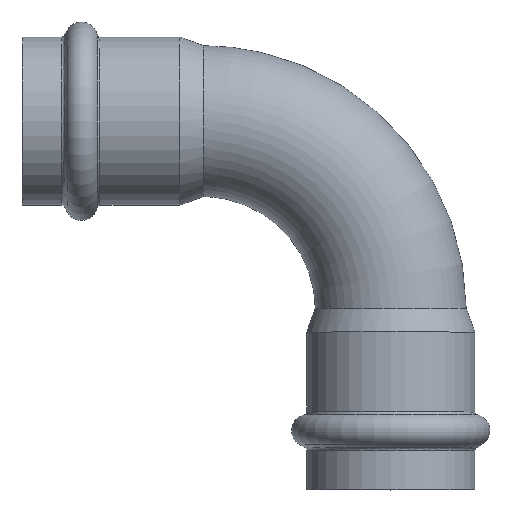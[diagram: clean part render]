
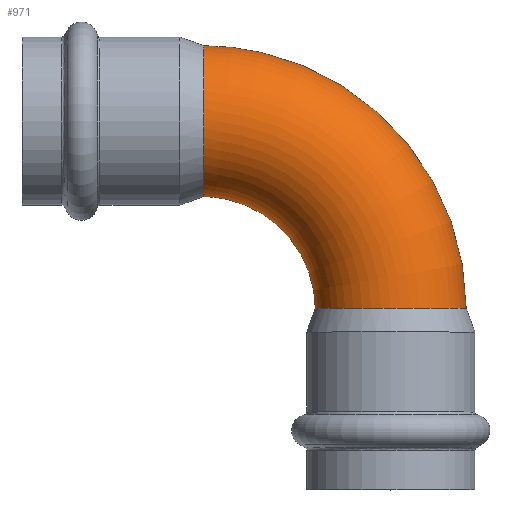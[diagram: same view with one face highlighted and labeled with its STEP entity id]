
A CAD part, top view. The second image highlights one B-rep face of the part: STEP entity #971.
In plain terms, the highlighted toroidal (fillet/blend) face has major radius 35 mm and minor radius 14 mm.
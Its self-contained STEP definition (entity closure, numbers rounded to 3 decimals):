
#648=CARTESIAN_POINT('',(13.999,-34.738,0.));
#649=VERTEX_POINT('',#648);
#650=CARTESIAN_POINT('',(13.999,-34.738,0.));
#651=CARTESIAN_POINT('',(13.999,-34.738,-1.032));
#652=CARTESIAN_POINT('',(13.885,-34.738,-2.061));
#653=CARTESIAN_POINT('',(13.433,-34.738,-4.075));
#654=CARTESIAN_POINT('',(13.096,-34.738,-5.053));
#655=CARTESIAN_POINT('',(11.875,-34.738,-7.635));
#656=CARTESIAN_POINT('',(10.781,-34.738,-9.115));
#657=CARTESIAN_POINT('',(8.086,-34.738,-11.573));
#658=CARTESIAN_POINT('',(6.511,-34.738,-12.527));
#659=CARTESIAN_POINT('',(3.083,-34.739,-13.777));
#660=CARTESIAN_POINT('',(1.263,-34.739,-14.062));
#661=CARTESIAN_POINT('',(-2.384,-34.74,-13.916));
#662=CARTESIAN_POINT('',(-4.175,-34.74,-13.487));
#663=CARTESIAN_POINT('',(-7.491,-34.741,-11.968));
#664=CARTESIAN_POINT('',(-8.984,-34.742,-10.892));
#665=CARTESIAN_POINT('',(-11.472,-34.743,-8.231));
#666=CARTESIAN_POINT('',(-12.444,-34.743,-6.671));
#667=CARTESIAN_POINT('',(-13.736,-34.744,-3.267));
#668=CARTESIAN_POINT('',(-14.045,-34.744,-1.453));
#669=CARTESIAN_POINT('',(-13.949,-34.744,2.193));
#670=CARTESIAN_POINT('',(-13.544,-34.744,3.992));
#671=CARTESIAN_POINT('',(-12.067,-34.743,7.331));
#672=CARTESIAN_POINT('',(-11.01,-34.743,8.84));
#673=CARTESIAN_POINT('',(-8.378,-34.742,11.364));
#674=CARTESIAN_POINT('',(-6.83,-34.741,12.357));
#675=CARTESIAN_POINT('',(-3.44,-34.74,13.693));
#676=CARTESIAN_POINT('',(-1.631,-34.74,14.024));
#677=CARTESIAN_POINT('',(2.012,-34.739,13.974));
#678=CARTESIAN_POINT('',(3.811,-34.739,13.594));
#679=CARTESIAN_POINT('',(7.163,-34.738,12.165));
#680=CARTESIAN_POINT('',(8.684,-34.738,11.131));
#681=CARTESIAN_POINT('',(11.245,-34.738,8.536));
#682=CARTESIAN_POINT('',(12.259,-34.738,7.001));
#683=CARTESIAN_POINT('',(13.643,-34.738,3.628));
#684=CARTESIAN_POINT('',(13.999,-34.738,1.823));
#685=CARTESIAN_POINT('',(13.999,-34.738,0.));
#686=B_SPLINE_CURVE_WITH_KNOTS('',3,(#650,#651,#652,#653,#654,#655,#656,#657,#658,#659,#660,#661,#662,#663,#664,#665,#666,#667,#668,#669,#670,#671,#672,#673,#674,#675,#676,#677,#678,#679,#680,#681,#682,#683,#684,#685),.UNSPECIFIED.,.T.,.U.,(4,2,2,2,2,2,2,2,2,2,2,2,2,2,2,2,2,4),(-8.823,-8.513,-8.204,-7.657,-7.11,-6.562,-6.015,-5.468,-4.922,-4.375,-3.827,-3.28,-2.733,-2.187,-1.64,-1.094,-0.547,0.0),.UNSPECIFIED.);
#687=EDGE_CURVE('',#649,#649,#686,.T.);
#920=CARTESIAN_POINT('',(-35.0,-35.0,0.));
#921=DIRECTION('',(0.,0.0,1.0));
#922=DIRECTION('',(1.0,0.0,0.0));
#923=AXIS2_PLACEMENT_3D('',#920,#921,#922);
#924=TOROIDAL_SURFACE('',#923,35.0,14.);
#925=CARTESIAN_POINT('',(-34.738,13.999,0.));
#926=VERTEX_POINT('',#925);
#927=CARTESIAN_POINT('',(-34.738,13.999,0.));
#928=CARTESIAN_POINT('',(-34.738,13.999,-1.823));
#929=CARTESIAN_POINT('',(-34.738,13.643,-3.628));
#930=CARTESIAN_POINT('',(-34.738,12.259,-7.001));
#931=CARTESIAN_POINT('',(-34.738,11.245,-8.536));
#932=CARTESIAN_POINT('',(-34.738,8.684,-11.131));
#933=CARTESIAN_POINT('',(-34.738,7.163,-12.165));
#934=CARTESIAN_POINT('',(-34.739,3.811,-13.594));
#935=CARTESIAN_POINT('',(-34.739,2.012,-13.974));
#936=CARTESIAN_POINT('',(-34.74,-1.631,-14.024));
#937=CARTESIAN_POINT('',(-34.74,-3.44,-13.693));
#938=CARTESIAN_POINT('',(-34.741,-6.83,-12.357));
#939=CARTESIAN_POINT('',(-34.742,-8.378,-11.364));
#940=CARTESIAN_POINT('',(-34.743,-11.01,-8.84));
#941=CARTESIAN_POINT('',(-34.743,-12.067,-7.331));
#942=CARTESIAN_POINT('',(-34.744,-13.544,-3.992));
#943=CARTESIAN_POINT('',(-34.744,-13.949,-2.193));
#944=CARTESIAN_POINT('',(-34.744,-14.045,1.453));
#945=CARTESIAN_POINT('',(-34.744,-13.736,3.267));
#946=CARTESIAN_POINT('',(-34.743,-12.444,6.671));
#947=CARTESIAN_POINT('',(-34.743,-11.472,8.231));
#948=CARTESIAN_POINT('',(-34.742,-8.984,10.892));
#949=CARTESIAN_POINT('',(-34.741,-7.491,11.968));
#950=CARTESIAN_POINT('',(-34.74,-4.175,13.487));
#951=CARTESIAN_POINT('',(-34.74,-2.384,13.916));
#952=CARTESIAN_POINT('',(-34.739,1.263,14.062));
#953=CARTESIAN_POINT('',(-34.739,3.083,13.777));
#954=CARTESIAN_POINT('',(-34.738,6.511,12.527));
#955=CARTESIAN_POINT('',(-34.738,8.086,11.573));
#956=CARTESIAN_POINT('',(-34.738,10.781,9.115));
#957=CARTESIAN_POINT('',(-34.738,11.875,7.635));
#958=CARTESIAN_POINT('',(-34.738,13.096,5.053));
#959=CARTESIAN_POINT('',(-34.738,13.433,4.075));
#960=CARTESIAN_POINT('',(-34.738,13.885,2.061));
#961=CARTESIAN_POINT('',(-34.738,13.999,1.032));
#962=CARTESIAN_POINT('',(-34.738,13.999,0.));
#963=B_SPLINE_CURVE_WITH_KNOTS('',3,(#927,#928,#929,#930,#931,#932,#933,#934,#935,#936,#937,#938,#939,#940,#941,#942,#943,#944,#945,#946,#947,#948,#949,#950,#951,#952,#953,#954,#955,#956,#957,#958,#959,#960,#961,#962),.UNSPECIFIED.,.T.,.U.,(4,2,2,2,2,2,2,2,2,2,2,2,2,2,2,2,2,4),(0.0,0.547,1.094,1.64,2.187,2.733,3.28,3.827,4.375,4.922,5.468,6.015,6.562,7.11,7.657,8.204,8.513,8.823),.UNSPECIFIED.);
#964=EDGE_CURVE('',#926,#926,#963,.T.);
#965=ORIENTED_EDGE('',*,*,#964,.F.);
#966=EDGE_LOOP('',(#965));
#967=FACE_OUTER_BOUND('',#966,.T.);
#968=ORIENTED_EDGE('',*,*,#687,.T.);
#969=EDGE_LOOP('',(#968));
#970=FACE_BOUND('',#969,.T.);
#971=ADVANCED_FACE('',(#967,#970),#924,.T.);
